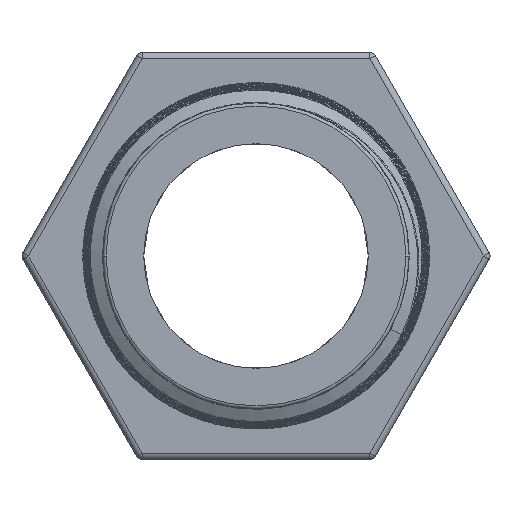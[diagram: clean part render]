
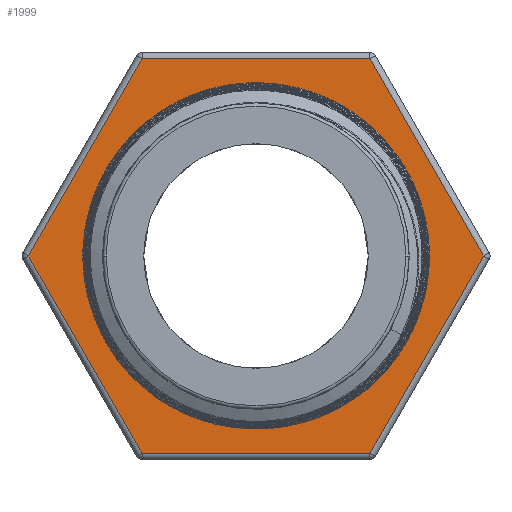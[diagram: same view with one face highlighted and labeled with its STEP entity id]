
A CAD part, front view. The second image highlights one B-rep face of the part: STEP entity #1999.
In plain terms, the highlighted planar face has unit normal (0, -1, 0).
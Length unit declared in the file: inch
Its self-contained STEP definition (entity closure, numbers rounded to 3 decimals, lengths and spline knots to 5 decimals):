
#126=B_SPLINE_CURVE_WITH_KNOTS('',3,(#2536,#2537,#2538,#2539,#2540,#2541,
#2542,#2543,#2544,#2545,#2546,#2547,#2548,#2549,#2550,#2551,#2552,#2553),
 .UNSPECIFIED.,.F.,.U.,(4,2,2,2,2,2,2,2,4),(-96.27518,-87.76363,
-79.41226,-65.03583,-49.44431,-36.93572,
-20.50166,-3.29042,0.),.UNSPECIFIED.);
#127=B_SPLINE_CURVE_WITH_KNOTS('',3,(#2555,#2556,#2557,#2558,#2559,#2560,
#2561,#2562,#2563,#2564,#2565,#2566,#2567,#2568),.UNSPECIFIED.,.F.,.U.,
(4,2,2,2,2,2,4),(-39.07916,-37.21805,-35.03436,
-29.58567,-16.59208,-2.89169,0.),.UNSPECIFIED.);
#128=B_SPLINE_CURVE_WITH_KNOTS('',3,(#2570,#2571,#2572,#2573,#2574,#2575,
#2576,#2577,#2578,#2579,#2580,#2581,#2582,#2583,#2584,#2585),
 .UNSPECIFIED.,.F.,.U.,(4,2,2,2,2,2,2,4),(-118.09449,-95.26434,
-72.61857,-50.26892,-32.31669,-17.41546,-3.58746,
0.),.UNSPECIFIED.);
#307=CIRCLE('',#2132,0.78356);
#365=VERTEX_POINT('',#2522);
#366=VERTEX_POINT('',#2523);
#367=VERTEX_POINT('',#2525);
#368=VERTEX_POINT('',#2527);
#369=VERTEX_POINT('',#2529);
#370=VERTEX_POINT('',#2531);
#371=VERTEX_POINT('',#2534);
#372=VERTEX_POINT('',#2535);
#373=VERTEX_POINT('',#2554);
#374=VERTEX_POINT('',#2569);
#565=VECTOR('',#2236,1.);
#566=VECTOR('',#2237,1.);
#567=VECTOR('',#2238,1.);
#568=VECTOR('',#2239,1.);
#569=VECTOR('',#2240,1.);
#570=VECTOR('',#2241,1.);
#654=LINE('',#2521,#565);
#655=LINE('',#2524,#566);
#656=LINE('',#2526,#567);
#657=LINE('',#2528,#568);
#658=LINE('',#2530,#569);
#659=LINE('',#2532,#570);
#743=EDGE_CURVE('',#365,#366,#654,.T.);
#744=EDGE_CURVE('',#366,#367,#655,.T.);
#745=EDGE_CURVE('',#367,#368,#656,.T.);
#746=EDGE_CURVE('',#368,#369,#657,.T.);
#747=EDGE_CURVE('',#369,#370,#658,.T.);
#748=EDGE_CURVE('',#370,#365,#659,.T.);
#749=EDGE_CURVE('',#371,#372,#307,.F.);
#750=EDGE_CURVE('',#373,#371,#126,.F.);
#751=EDGE_CURVE('',#374,#373,#127,.F.);
#752=EDGE_CURVE('',#372,#374,#128,.F.);
#1071=ORIENTED_EDGE('',*,*,#743,.T.);
#1072=ORIENTED_EDGE('',*,*,#744,.T.);
#1073=ORIENTED_EDGE('',*,*,#745,.T.);
#1074=ORIENTED_EDGE('',*,*,#746,.T.);
#1075=ORIENTED_EDGE('',*,*,#747,.T.);
#1076=ORIENTED_EDGE('',*,*,#748,.T.);
#1077=ORIENTED_EDGE('',*,*,#749,.F.);
#1078=ORIENTED_EDGE('',*,*,#750,.F.);
#1079=ORIENTED_EDGE('',*,*,#751,.F.);
#1080=ORIENTED_EDGE('',*,*,#752,.F.);
#1727=EDGE_LOOP('',(#1071,#1072,#1073,#1074,#1075,#1076));
#1728=EDGE_LOOP('',(#1077,#1078,#1079,#1080));
#1863=FACE_BOUND('',#1727,.T.);
#1864=FACE_BOUND('',#1728,.T.);
#1999=ADVANCED_FACE('',(#1863,#1864),#31880,.F.);
#2131=AXIS2_PLACEMENT_3D('',#2520,#2235,$);
#2132=AXIS2_PLACEMENT_3D('',#2533,#2242,#2243);
#2235=DIRECTION('',(0.,1.,0.));
#2236=DIRECTION('',(1.,0.,0.));
#2237=DIRECTION('',(0.5,0.,0.866));
#2238=DIRECTION('',(-0.5,0.,0.866));
#2239=DIRECTION('',(-1.,0.,0.));
#2240=DIRECTION('',(-0.5,0.,-0.866));
#2241=DIRECTION('',(0.5,0.,-0.866));
#2242=DIRECTION('',(0.,1.,0.));
#2243=DIRECTION('',(-0.784,0.,0.));
#2520=CARTESIAN_POINT('',(0.,-0.19291,0.));
#2521=CARTESIAN_POINT('',(-4.1308,-0.19291,-0.96024));
#2522=CARTESIAN_POINT('',(-0.55439,-0.19291,-0.96024));
#2523=CARTESIAN_POINT('',(0.55439,-0.19291,-0.96024));
#2524=CARTESIAN_POINT('',(-1.0122,-0.19291,-3.67365));
#2525=CARTESIAN_POINT('',(1.10879,-0.19291,0.));
#2526=CARTESIAN_POINT('',(3.22977,-0.19291,-3.67365));
#2527=CARTESIAN_POINT('',(0.55439,-0.19291,0.96024));
#2528=CARTESIAN_POINT('',(4.1308,-0.19291,0.96024));
#2529=CARTESIAN_POINT('',(-0.55439,-0.19291,0.96024));
#2530=CARTESIAN_POINT('',(1.01233,-0.19291,3.67388));
#2531=CARTESIAN_POINT('',(-1.10879,-0.19291,0.));
#2532=CARTESIAN_POINT('',(-3.2299,-0.19291,3.67388));
#2533=CARTESIAN_POINT('',(0.,-0.19291,0.));
#2534=CARTESIAN_POINT('',(-0.40336,-0.19291,0.67177));
#2535=CARTESIAN_POINT('',(-0.6676,-0.19291,0.41023));
#2536=CARTESIAN_POINT('',(-0.43485,-0.19291,0.65045));
#2537=CARTESIAN_POINT('',(-0.37365,-0.19291,0.69412));
#2538=CARTESIAN_POINT('',(-0.30526,-0.19291,0.72935));
#2539=CARTESIAN_POINT('',(-0.15719,-0.19291,0.77914));
#2540=CARTESIAN_POINT('',(-0.08022,-0.19291,0.79315));
#2541=CARTESIAN_POINT('',(0.13023,-0.19291,0.80022));
#2542=CARTESIAN_POINT('',(0.23848,-0.19291,0.76961));
#2543=CARTESIAN_POINT('',(0.38005,-0.19291,0.71602));
#2544=CARTESIAN_POINT('',(0.47785,-0.19291,0.66696));
#2545=CARTESIAN_POINT('',(0.64882,-0.19291,0.5062));
#2546=CARTESIAN_POINT('',(0.71126,-0.19291,0.41994));
#2547=CARTESIAN_POINT('',(0.81321,-0.19291,0.20072));
#2548=CARTESIAN_POINT('',(0.82801,-0.19291,0.08532));
#2549=CARTESIAN_POINT('',(0.83423,-0.19291,-0.06864));
#2550=CARTESIAN_POINT('',(0.82809,-0.19291,-0.18299));
#2551=CARTESIAN_POINT('',(0.76997,-0.19291,-0.33939));
#2552=CARTESIAN_POINT('',(0.76515,-0.19291,-0.35004));
#2553=CARTESIAN_POINT('',(0.74796,-0.19291,-0.38965));
#2554=CARTESIAN_POINT('',(0.76163,-0.19291,-0.35816));
#2555=CARTESIAN_POINT('',(0.77463,-0.19291,-0.32666));
#2556=CARTESIAN_POINT('',(0.76979,-0.19291,-0.33911));
#2557=CARTESIAN_POINT('',(0.76432,-0.19291,-0.35228));
#2558=CARTESIAN_POINT('',(0.75185,-0.19291,-0.37997));
#2559=CARTESIAN_POINT('',(0.74458,-0.19291,-0.39476));
#2560=CARTESIAN_POINT('',(0.71763,-0.19291,-0.44543));
#2561=CARTESIAN_POINT('',(0.69556,-0.19291,-0.47993));
#2562=CARTESIAN_POINT('',(0.61227,-0.19291,-0.5906));
#2563=CARTESIAN_POINT('',(0.53934,-0.19291,-0.65811));
#2564=CARTESIAN_POINT('',(0.37033,-0.19291,-0.76668));
#2565=CARTESIAN_POINT('',(0.27463,-0.19291,-0.80519));
#2566=CARTESIAN_POINT('',(0.15174,-0.19291,-0.82841));
#2567=CARTESIAN_POINT('',(0.14621,-0.19291,-0.82897));
#2568=CARTESIAN_POINT('',(0.10866,-0.19291,-0.83449));
#2569=CARTESIAN_POINT('',(0.14016,-0.19291,-0.82989));
#2570=CARTESIAN_POINT('',(0.17166,-0.19291,-0.82493));
#2571=CARTESIAN_POINT('',(0.07406,-0.19291,-0.84221));
#2572=CARTESIAN_POINT('',(-0.02594,-0.19291,-0.84203));
#2573=CARTESIAN_POINT('',(-0.21938,-0.19291,-0.80713));
#2574=CARTESIAN_POINT('',(-0.3124,-0.19291,-0.77267));
#2575=CARTESIAN_POINT('',(-0.47981,-0.19291,-0.67399));
#2576=CARTESIAN_POINT('',(-0.56316,-0.19291,-0.60506));
#2577=CARTESIAN_POINT('',(-0.6894,-0.19291,-0.43878));
#2578=CARTESIAN_POINT('',(-0.74098,-0.19291,-0.34452));
#2579=CARTESIAN_POINT('',(-0.79613,-0.19291,-0.13632));
#2580=CARTESIAN_POINT('',(-0.8057,-0.19291,-0.03121));
#2581=CARTESIAN_POINT('',(-0.77735,-0.19291,0.18216));
#2582=CARTESIAN_POINT('',(-0.7439,-0.19291,0.28079));
#2583=CARTESIAN_POINT('',(-0.67875,-0.19291,0.39368));
#2584=CARTESIAN_POINT('',(-0.67275,-0.19291,0.40242));
#2585=CARTESIAN_POINT('',(-0.64684,-0.19291,0.44172));
#31880=PLANE('',#2131);
